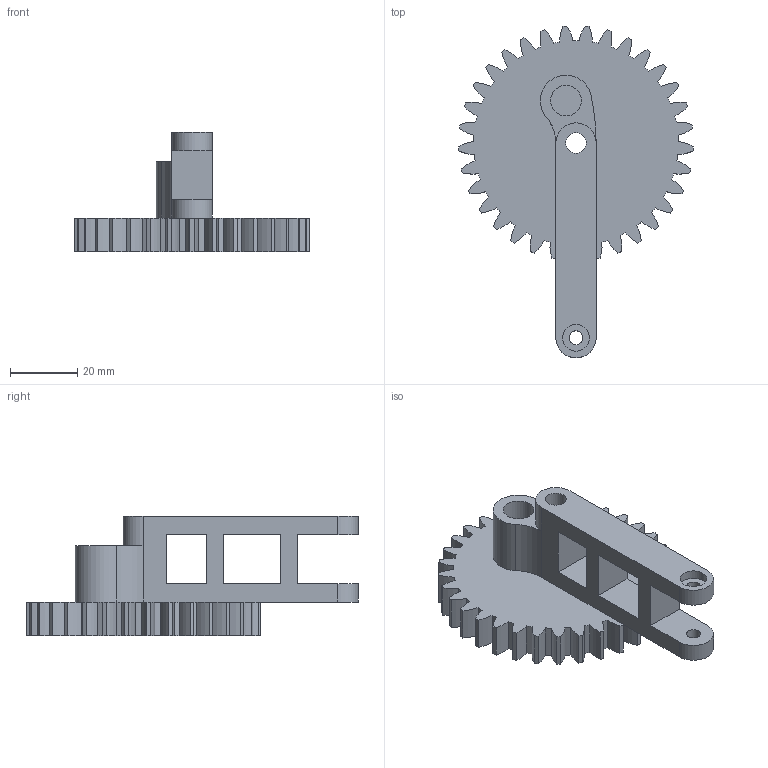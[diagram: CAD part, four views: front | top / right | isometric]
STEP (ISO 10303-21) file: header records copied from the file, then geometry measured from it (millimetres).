
FILE_DESCRIPTION (( 'STEP AP214' ), '1' );
FILE_NAME ('left-outer-link-and-gear.step', '2026-11-14T03:54:43', ( '' ), ( '' ), 'SwSTEP 2.0', 'SolidWorks 2024', '' );
FILE_SCHEMA (( 'AUTOMOTIVE_DESIGN' ));
Length unit declared in the file: millimetre
Products named in the file (1): left-outer-link-and-gear
Bounding box: 69.97 x 98.89 x 35.5 mm (x, y, z)
Volume: 47032.7 mm3; surface area: 17837.5 mm2
Topology: 1 solids, 1 shells, 172 faces, 496 edges, 330 vertices
Faces by surface type: cylinder 144, plane 28
Full cylindrical faces by diameter (mm): 4.1 x2, 6.16 x1, 7 x1, 8 x1, 9.16 x1
Entity records: 5809 total; most frequent: DIRECTION 1124, CARTESIAN_POINT 989, ORIENTED_EDGE 976, EDGE_CURVE 488, AXIS2_PLACEMENT_3D 463, VERTEX_POINT 328, CIRCLE 290, VECTOR 198
